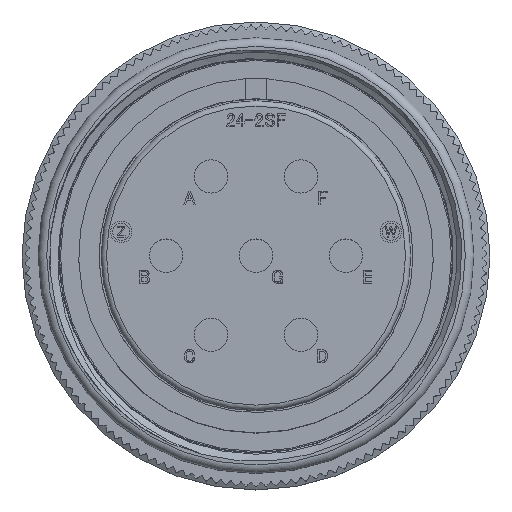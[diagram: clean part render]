
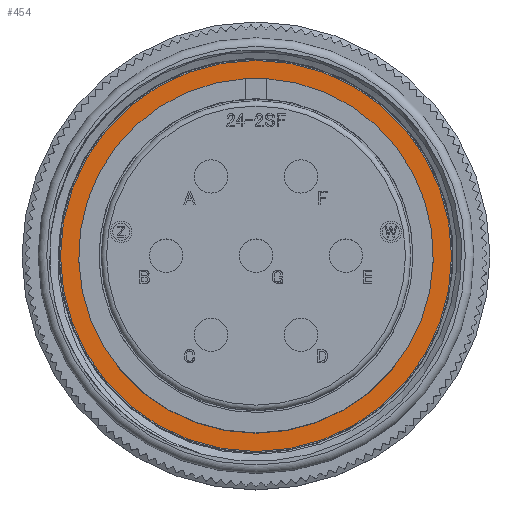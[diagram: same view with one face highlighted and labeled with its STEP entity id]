
A CAD part, top view. The second image highlights one B-rep face of the part: STEP entity #454.
In plain terms, the highlighted planar face has unit normal (0, 0, 1).
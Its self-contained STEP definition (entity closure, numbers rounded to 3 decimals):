
#454 = ADVANCED_FACE ( 'NONE', ( #11252, #78795 ), #87274, .F. ) ;
#833 = EDGE_CURVE ( 'NONE', #80994, #80994, #42298, .T. ) ;
#1923 = DIRECTION ( 'NONE',  ( 1., 0., 0. ) ) ;
#2739 = DIRECTION ( 'NONE',  ( 1., 0., 0. ) ) ;
#5103 = EDGE_LOOP ( 'NONE', ( #58602 ) ) ;
#9276 = EDGE_CURVE ( 'NONE', #72507, #31002, #84670, .T. ) ;
#10359 = CIRCLE ( 'NONE', #30891, 16.51 ) ;
#11252 = FACE_BOUND ( 'NONE', #74442, .T. ) ;
#15987 = CARTESIAN_POINT ( 'NONE',  ( 0., 0., -16.66 ) ) ;
#21994 = DIRECTION ( 'NONE',  ( 0., 0., 1. ) ) ;
#22869 = DIRECTION ( 'NONE',  ( 0., 0., 1. ) ) ;
#28601 = AXIS2_PLACEMENT_3D ( 'NONE', #15987, #22869, #36059 ) ;
#30891 = AXIS2_PLACEMENT_3D ( 'NONE', #63892, #21994, #1923 ) ;
#31002 = VERTEX_POINT ( 'NONE', #71266 ) ;
#36059 = DIRECTION ( 'NONE',  ( 1., 0., 0. ) ) ;
#42298 = CIRCLE ( 'NONE', #60219, 18.21 ) ;
#43775 = DIRECTION ( 'NONE',  ( 0., 0., 1. ) ) ;
#46208 = DIRECTION ( 'NONE',  ( 0., 0., -1. ) ) ;
#56042 = ORIENTED_EDGE ( 'NONE', *, *, #9276, .F. ) ;
#58602 = ORIENTED_EDGE ( 'NONE', *, *, #833, .T. ) ;
#59412 = DIRECTION ( 'NONE',  ( -1., 0., 0. ) ) ;
#60219 = AXIS2_PLACEMENT_3D ( 'NONE', #84798, #43775, #2739 ) ;
#63892 = CARTESIAN_POINT ( 'NONE',  ( 0., 0., -16.66 ) ) ;
#64098 = ORIENTED_EDGE ( 'NONE', *, *, #70408, .F. ) ;
#70408 = EDGE_CURVE ( 'NONE', #31002, #72507, #10359, .T. ) ;
#71266 = CARTESIAN_POINT ( 'NONE',  ( -1., 16.48, -16.66 ) ) ;
#72507 = VERTEX_POINT ( 'NONE', #85623 ) ;
#74442 = EDGE_LOOP ( 'NONE', ( #56042, #64098 ) ) ;
#74483 = AXIS2_PLACEMENT_3D ( 'NONE', #86090, #46208, #59412 ) ;
#78795 = FACE_OUTER_BOUND ( 'NONE', #5103, .T. ) ;
#80994 = VERTEX_POINT ( 'NONE', #86278 ) ;
#84670 = CIRCLE ( 'NONE', #28601, 16.51 ) ;
#84798 = CARTESIAN_POINT ( 'NONE',  ( 0., 0., -16.66 ) ) ;
#85623 = CARTESIAN_POINT ( 'NONE',  ( 1., 16.48, -16.66 ) ) ;
#86090 = CARTESIAN_POINT ( 'NONE',  ( 0., 18.21, -16.66 ) ) ;
#86278 = CARTESIAN_POINT ( 'NONE',  ( 18.21, 0., -16.66 ) ) ;
#87274 = PLANE ( 'NONE',  #74483 ) ;
